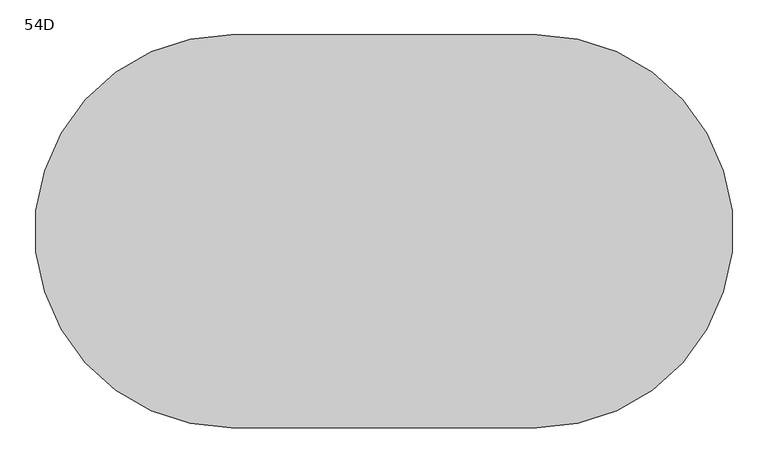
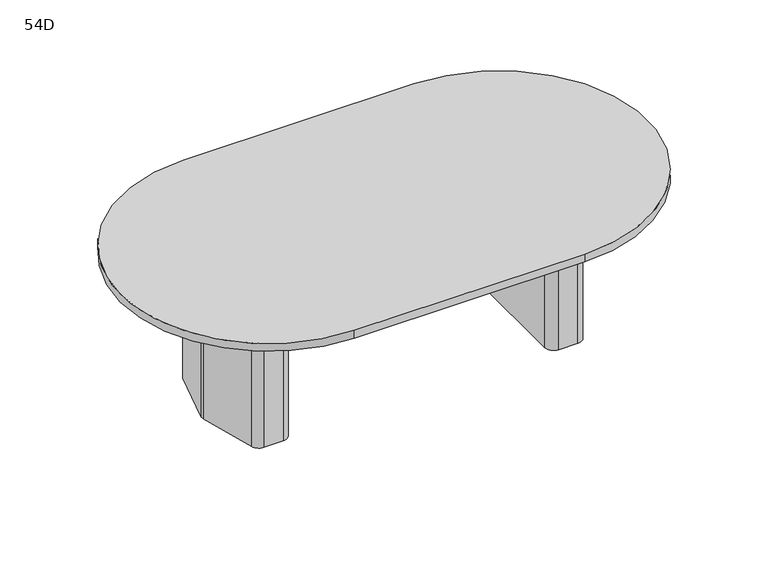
"""IFC4 building model written with IfcOpenShell, lengths in millimetres: furniture geometry, Coalesse_AM_Table_Conference_ETable2_Racetrack_96in_TwoBase : 54D."""

from ifc_helpers import new_model, si_unit, point, frame, frame_2d, origin, place, context, project, spatial, polyline, circle_curve, trimmed, segment, composite_curve, outline, extrude, source, transform, mapped, element, save
from ifc_brep_helpers import plane_surface, cylinder_surface, revolved_surface, advanced_brep


def furniture_54d_e9059d03(model_context):
    return source(origin(), model_context, "Body", "SolidModel", [
        advanced_brep(
        [(760.624548, 274.2093613, 698.5), (720.7579246, 304.8, 698.5), (631.825, 304.8, 698.5), (590.55, 263.525, 698.5), (590.55, -263.525, 698.5), (631.825, -304.8, 698.5), (720.7579246, -304.8, 698.5), (760.624548, -274.2093613, 698.5), (831.2503901, -10.6333708, 698.5), (831.2503901, 10.6333708, 698.5), (628.65, -206.375, 698.5), (628.65, 206.375, 698.5), (654.05, 231.775, 698.5), (713.0608422, 231.775, 698.5), (737.595338, 212.9490792, 698.5), (776.2875, 68.54974, 698.5), (776.2875, -68.54974, 698.5), (737.595338, -212.9490792, 698.5), (713.0608422, -231.775, 698.5), (654.05, -231.775, 698.5), (760.624548, 274.2093613, 3.175), (831.2503901, 10.6333708, 3.175), (831.2503901, -10.6333708, 3.175), (760.624548, -274.2093613, 3.175), (720.7579246, -304.8, 3.175), (631.825, -304.8, 3.175), (590.55, -263.525, 3.175), (590.55, 263.525, 3.175), (631.825, 304.8, 3.175), (720.7579246, 304.8, 3.175), (749.8625859, 216.2361187, 3.175), (713.0608422, 244.475, 3.175), (654.05, 244.475, 3.175), (615.95, 206.375, 3.175), (615.95, -206.375, 3.175), (654.05, -244.475, 3.175), (713.0608422, -244.475, 3.175), (749.8625859, -216.2361187, 3.175), (788.9875, -70.2217466, 3.175), (788.9875, 70.2217466, 3.175), (654.05, -231.775, 3.175), (628.65, -206.375, 3.175), (713.0608422, -231.775, 3.175), (737.595338, -212.9490792, 3.175), (776.2875, -68.54974, 3.175), (776.2875, 68.54974, 3.175), (737.595338, 212.9490792, 3.175), (713.0608422, 231.775, 3.175), (654.05, 231.775, 3.175), (628.65, 206.375, 3.175), (749.8625859, 216.2361187, 0.0), (788.9875, 70.2217466, 0.0), (788.9875, -70.2217466, 0.0), (749.8625859, -216.2361187, 0.0), (713.0608422, -244.475, 0.0), (654.05, -244.475, 0.0), (615.95, -206.375, 0.0), (615.95, 206.375, 0.0), (654.05, 244.475, 0.0), (713.0608422, 244.475, 0.0)],
        [
            (0, 1, circle_curve(frame((720.7579246, 263.5270004, 698.5), z_axis=(0.0, 0.0, 1.0), x_axis=(-1.0, 0.0, 0.0)), 41.2729996)),
            (1, 2),
            (2, 3, circle_curve(frame((631.825, 263.525, 698.5), z_axis=(0.0, 0.0, 1.0), x_axis=(-1.0, 0.0, 0.0)), 41.275)),
            (3, 4),
            (4, 5, circle_curve(frame((631.825, -263.525, 698.5), z_axis=(0.0, 0.0, 1.0), x_axis=(-1.0, 0.0, 0.0)), 41.275)),
            (5, 6),
            (6, 7, circle_curve(frame((720.7579246, -263.5270004, 698.5), z_axis=(0.0, 0.0, 1.0), x_axis=(-1.0, 0.0, 0.0)), 41.2729996)),
            (7, 8),
            (8, 9, circle_curve(frame((791.5665979, 0.0, 698.5), z_axis=(0.0, 0.0, 1.0), x_axis=(-1.0, 0.0, 0.0)), 41.0837187)),
            (9, 0),
            (10, 11),
            (11, 12, circle_curve(frame((654.05, 206.375, 698.5), z_axis=(0.0, 0.0, -1.0), x_axis=(-1.0, 0.0, 0.0)), 25.4)),
            (12, 13),
            (13, 14, circle_curve(frame((713.0608422, 206.375, 698.5), z_axis=(0.0, 0.0, -1.0), x_axis=(-1.0, 0.0, 0.0)), 25.4)),
            (14, 15),
            (15, 16),
            (16, 17),
            (17, 18, circle_curve(frame((713.0608422, -206.375, 698.5), z_axis=(0.0, 0.0, -1.0), x_axis=(-1.0, 0.0, 0.0)), 25.4)),
            (18, 19),
            (19, 10, circle_curve(frame((654.05, -206.375, 698.5), z_axis=(0.0, 0.0, -1.0), x_axis=(-1.0, 0.0, 0.0)), 25.4)),
            (20, 21),
            (21, 22, circle_curve(frame((791.5665979, 0.0, 3.175), z_axis=(0.0, 0.0, -1.0), x_axis=(-1.0, 0.0, 0.0)), 41.0837187)),
            (22, 23),
            (23, 24, circle_curve(frame((720.7579246, -263.5270004, 3.175), z_axis=(0.0, 0.0, -1.0), x_axis=(-1.0, 0.0, 0.0)), 41.2729996)),
            (24, 25),
            (25, 26, circle_curve(frame((631.825, -263.525, 3.175), z_axis=(0.0, 0.0, -1.0), x_axis=(-1.0, 0.0, 0.0)), 41.275)),
            (26, 27),
            (27, 28, circle_curve(frame((631.825, 263.525, 3.175), z_axis=(0.0, 0.0, -1.0), x_axis=(-1.0, 0.0, 0.0)), 41.275)),
            (28, 29),
            (29, 20, circle_curve(frame((720.7579246, 263.5270004, 3.175), z_axis=(0.0, 0.0, -1.0), x_axis=(-1.0, 0.0, 0.0)), 41.2729996)),
            (30, 31, circle_curve(frame((713.0608422, 206.375, 3.175), z_axis=(0.0, 0.0, 1.0), x_axis=(-1.0, 0.0, 0.0)), 38.1)),
            (31, 32),
            (32, 33, circle_curve(frame((654.05, 206.375, 3.175), z_axis=(0.0, 0.0, 1.0), x_axis=(-1.0, 0.0, 0.0)), 38.1)),
            (33, 34),
            (34, 35, circle_curve(frame((654.05, -206.375, 3.175), z_axis=(0.0, 0.0, 1.0), x_axis=(-1.0, 0.0, 0.0)), 38.1)),
            (35, 36),
            (36, 37, circle_curve(frame((713.0608422, -206.375, 3.175), z_axis=(0.0, 0.0, 1.0), x_axis=(-1.0, 0.0, 0.0)), 38.1)),
            (37, 38),
            (38, 39),
            (39, 30),
            (9, 21),
            (20, 0),
            (8, 22),
            (7, 23),
            (6, 24),
            (5, 25),
            (4, 26),
            (3, 27),
            (2, 28),
            (1, 29),
            (19, 40),
            (40, 41, circle_curve(frame((654.05, -206.375, 3.175), z_axis=(0.0, 0.0, -1.0), x_axis=(-1.0, 0.0, 0.0)), 25.4)),
            (41, 10),
            (18, 42),
            (42, 40),
            (17, 43),
            (43, 42, circle_curve(frame((713.0608422, -206.375, 3.175), z_axis=(0.0, 0.0, -1.0), x_axis=(-1.0, 0.0, 0.0)), 25.4)),
            (16, 44),
            (44, 43),
            (15, 45),
            (45, 44),
            (14, 46),
            (46, 45),
            (13, 47),
            (47, 46, circle_curve(frame((713.0608422, 206.375, 3.175), z_axis=(0.0, 0.0, -1.0), x_axis=(-1.0, 0.0, 0.0)), 25.4)),
            (12, 48),
            (48, 47),
            (11, 49),
            (49, 48, circle_curve(frame((654.05, 206.375, 3.175), z_axis=(0.0, 0.0, -1.0), x_axis=(-1.0, 0.0, 0.0)), 25.4)),
            (41, 49),
            (50, 51),
            (51, 52),
            (52, 53),
            (53, 54, circle_curve(frame((713.0608422, -206.375, 0.0), z_axis=(0.0, 0.0, -1.0), x_axis=(-1.0, 0.0, 0.0)), 38.1)),
            (54, 55),
            (55, 56, circle_curve(frame((654.05, -206.375, 0.0), z_axis=(0.0, 0.0, -1.0), x_axis=(-1.0, 0.0, 0.0)), 38.1)),
            (56, 57),
            (57, 58, circle_curve(frame((654.05, 206.375, 0.0), z_axis=(0.0, 0.0, -1.0), x_axis=(-1.0, 0.0, 0.0)), 38.1)),
            (58, 59),
            (59, 50, circle_curve(frame((713.0608422, 206.375, 0.0), z_axis=(0.0, 0.0, -1.0), x_axis=(-1.0, 0.0, 0.0)), 38.1)),
            (50, 30),
            (39, 51),
            (38, 52),
            (37, 53),
            (36, 54),
            (35, 55),
            (34, 56),
            (33, 57),
            (32, 58),
            (31, 59),
        ],
        [
            plane_surface(frame((831.2374275, 10.6817473, 698.5), z_axis=(0.0, 0.0, 1.0000000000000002), x_axis=(0.25882201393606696, -0.9659250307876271, 0.0))),
            plane_surface(frame((831.2374275, 10.6817473, 3.175), z_axis=(0.0, 0.0, -1.0000000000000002), x_axis=(-0.25882201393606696, 0.9659250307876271, 0.0))),
            plane_surface(frame((760.624548, 274.2093613, 698.5), z_axis=(0.9659250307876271, 0.25882201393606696, 0.0), x_axis=(0.0, 0.0, -1.0))),
            cylinder_surface(frame((791.5665979, 0.0, 3.175), z_axis=(0.0, 0.0, 1.0), x_axis=(-1.0, 0.0, 0.0)), 41.0837187),
            plane_surface(frame((831.2503901, -10.6333708, 698.5), z_axis=(0.9659250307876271, -0.2588220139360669, 0.0), x_axis=(0.0, 0.0, -1.0))),
            cylinder_surface(frame((720.7579246, -263.5270004, 3.175), z_axis=(0.0, 0.0, 1.0), x_axis=(-1.0, 0.0, 0.0)), 41.2729996),
            plane_surface(frame((720.7579246, -304.8, 698.5), z_axis=(0.0, -1.0, 0.0), x_axis=(0.0, 0.0, -1.0))),
            cylinder_surface(frame((631.825, -263.525, 3.175), z_axis=(0.0, 0.0, 1.0), x_axis=(-1.0, 0.0, 0.0)), 41.275),
            plane_surface(frame((590.55, -263.525, 698.5), z_axis=(-1.0, 0.0, 0.0), x_axis=(0.0, 0.0, -1.0))),
            cylinder_surface(frame((631.825, 263.525, 3.175), z_axis=(0.0, 0.0, 1.0), x_axis=(-1.0, 0.0, 0.0)), 41.275),
            plane_surface(frame((631.825, 304.8, 698.5), z_axis=(0.0, 1.0, 0.0), x_axis=(0.0, 0.0, -1.0))),
            cylinder_surface(frame((720.7579246, 263.5270004, 3.175), z_axis=(0.0, 0.0, 1.0), x_axis=(-1.0, 0.0, 0.0)), 41.2729996),
            revolved_surface(polyline([(628.65, -206.375, 3.175), (628.65, -206.375, 698.5)]), (654.05, -206.375, 0.0), (0.0, 0.0, -1.0)),
            plane_surface(frame((654.05, -231.775, 698.5), z_axis=(0.0, 1.0, 0.0), x_axis=(0.0, 0.0, -1.0))),
            revolved_surface(polyline([(687.6608422, -206.375, 3.175), (687.6608422, -206.375, 698.5)]), (713.0608422, -206.375, 0.0), (0.0, 0.0, -1.0)),
            plane_surface(frame((737.595338, -212.9490792, 698.5), z_axis=(-0.9659250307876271, 0.2588220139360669, 0.0), x_axis=(0.0, 0.0, -1.0))),
            plane_surface(frame((776.2875, -68.54974, 698.5), z_axis=(-1.0, 0.0, 0.0), x_axis=(0.0, 0.0, -1.0))),
            plane_surface(frame((776.2875, 68.54974, 698.5), z_axis=(-0.9659250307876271, -0.25882201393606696, 0.0), x_axis=(0.0, 0.0, -1.0))),
            revolved_surface(polyline([(687.6608422, 206.375, 3.175), (687.6608422, 206.375, 698.5)]), (713.0608422, 206.375, 0.0), (0.0, 0.0, -1.0)),
            plane_surface(frame((713.0608422, 231.775, 698.5), z_axis=(0.0, -1.0, 0.0), x_axis=(0.0, 0.0, -1.0))),
            revolved_surface(polyline([(628.65, 206.375, 3.175), (628.65, 206.375, 698.5)]), (654.05, 206.375, 0.0), (0.0, 0.0, -1.0)),
            plane_surface(frame((628.65, 206.375, 698.5), z_axis=(1.0, 0.0, 0.0), x_axis=(0.0, 0.0, -1.0))),
            plane_surface(frame((788.5547479, 71.8367796, 3.175), z_axis=(0.0, 0.0, 1.0), x_axis=(0.25882201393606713, -0.965925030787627, 0.0))),
            plane_surface(frame((788.5547479, 71.8367796, 0.0), z_axis=(0.0, 0.0, -1.0), x_axis=(-0.25882201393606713, 0.965925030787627, 0.0))),
            plane_surface(frame((749.8625859, 216.2361187, 3.175), z_axis=(0.965925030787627, 0.25882201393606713, 0.0), x_axis=(0.0, 0.0, -1.0))),
            plane_surface(frame((788.9875, 70.2217466, 3.175), z_axis=(1.0, 0.0, 0.0), x_axis=(0.0, 0.0, -1.0))),
            plane_surface(frame((788.9875, -70.2217466, 3.175), z_axis=(0.9659250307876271, -0.2588220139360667, 0.0), x_axis=(0.0, 0.0, -1.0))),
            cylinder_surface(frame((713.0608422, -206.375, 0.0), z_axis=(0.0, 0.0, 1.0), x_axis=(-1.0, 0.0, 0.0)), 38.1),
            plane_surface(frame((713.0608422, -244.475, 3.175), z_axis=(0.0, -1.0, 0.0), x_axis=(0.0, 0.0, -1.0))),
            cylinder_surface(frame((654.05, -206.375, 0.0), z_axis=(0.0, 0.0, 1.0), x_axis=(-1.0, 0.0, 0.0)), 38.1),
            plane_surface(frame((615.95, -206.375, 3.175), z_axis=(-1.0, 0.0, 0.0), x_axis=(0.0, 0.0, -1.0))),
            cylinder_surface(frame((654.05, 206.375, 0.0), z_axis=(0.0, 0.0, 1.0), x_axis=(-1.0, 0.0, 0.0)), 38.1),
            plane_surface(frame((654.05, 244.475, 3.175), z_axis=(0.0, 1.0, 0.0), x_axis=(0.0, 0.0, -1.0))),
            cylinder_surface(frame((713.0608422, 206.375, 0.0), z_axis=(0.0, 0.0, 1.0), x_axis=(-1.0, 0.0, 0.0)), 38.1),
        ],
        [
            (0, [[1, 2, 3, 4, 5, 6, 7, 8, 9, 10], [11, 12, 13, 14, 15, 16, 17, 18, 19, 20]]),
            (1, [[21, 22, 23, 24, 25, 26, 27, 28, 29, 30], [31, 32, 33, 34, 35, 36, 37, 38, 39, 40]]),
            (2, [[41, -21, 42, -10]]),
            (3, [[43, -22, -41, -9]]),
            (4, [[44, -23, -43, -8]]),
            (5, [[45, -24, -44, -7]]),
            (6, [[46, -25, -45, -6]]),
            (7, [[47, -26, -46, -5]]),
            (8, [[48, -27, -47, -4]]),
            (9, [[49, -28, -48, -3]]),
            (10, [[50, -29, -49, -2]]),
            (11, [[-42, -30, -50, -1]]),
            (12, [[51, 52, 53, -20]]),
            (13, [[54, 55, -51, -19]]),
            (14, [[56, 57, -54, -18]]),
            (15, [[58, 59, -56, -17]]),
            (16, [[60, 61, -58, -16]]),
            (17, [[62, 63, -60, -15]]),
            (18, [[64, 65, -62, -14]]),
            (19, [[66, 67, -64, -13]]),
            (20, [[68, 69, -66, -12]]),
            (21, [[-53, 70, -68, -11]]),
            (22, [[-55, -57, -59, -61, -63, -65, -67, -69, -70, -52]]),
            (23, [[71, 72, 73, 74, 75, 76, 77, 78, 79, 80]]),
            (24, [[81, -40, 82, -71]]),
            (25, [[-82, -39, 83, -72]]),
            (26, [[-83, -38, 84, -73]]),
            (27, [[-84, -37, 85, -74]]),
            (28, [[-85, -36, 86, -75]]),
            (29, [[-86, -35, 87, -76]]),
            (30, [[-87, -34, 88, -77]]),
            (31, [[-88, -33, 89, -78]]),
            (32, [[-89, -32, 90, -79]]),
            (33, [[-90, -31, -81, -80]]),
        ],
    ),
        advanced_brep(
        [(-771.737048, 274.2093613, 698.5), (-842.3628901, 10.6333708, 698.5), (-842.3628901, -10.6333708, 698.5), (-771.737048, -274.2093613, 698.5), (-731.8704246, -304.8, 698.5), (-642.9375, -304.8, 698.5), (-601.6625, -263.525, 698.5), (-601.6625, 263.525, 698.5), (-642.9375, 304.8, 698.5), (-731.8704246, 304.8, 698.5), (-639.7625, -206.375, 698.5), (-665.1625, -231.775, 698.5), (-724.1733422, -231.775, 698.5), (-748.707838, -212.9490792, 698.5), (-787.4, -68.54974, 698.5), (-787.4, 68.54974, 698.5), (-748.707838, 212.9490792, 698.5), (-724.1733422, 231.775, 698.5), (-665.1625, 231.775, 698.5), (-639.7625, 206.375, 698.5), (-771.737048, 274.2093613, 3.175), (-731.8704246, 304.8, 3.175), (-642.9375, 304.8, 3.175), (-601.6625, 263.525, 3.175), (-601.6625, -263.525, 3.175), (-642.9375, -304.8, 3.175), (-731.8704246, -304.8, 3.175), (-771.737048, -274.2093613, 3.175), (-842.3628901, -10.6333708, 3.175), (-842.3628901, 10.6333708, 3.175), (-760.9750859, 216.2361187, 3.175), (-800.1, 70.2217466, 3.175), (-800.1, -70.2217466, 3.175), (-760.9750859, -216.2361187, 3.175), (-724.1733422, -244.475, 3.175), (-665.1625, -244.475, 3.175), (-627.0625, -206.375, 3.175), (-627.0625, 206.375, 3.175), (-665.1625, 244.475, 3.175), (-724.1733422, 244.475, 3.175), (-639.7625, -206.375, 3.175), (-665.1625, -231.775, 3.175), (-724.1733422, -231.775, 3.175), (-748.707838, -212.9490792, 3.175), (-787.4, -68.54974, 3.175), (-787.4, 68.54974, 3.175), (-748.707838, 212.9490792, 3.175), (-724.1733422, 231.775, 3.175), (-665.1625, 231.775, 3.175), (-639.7625, 206.375, 3.175), (-760.9750859, 216.2361187, 0.0), (-724.1733422, 244.475, 0.0), (-665.1625, 244.475, 0.0), (-627.0625, 206.375, 0.0), (-627.0625, -206.375, 0.0), (-665.1625, -244.475, 0.0), (-724.1733422, -244.475, 0.0), (-760.9750859, -216.2361187, 0.0), (-800.1, -70.2217466, 0.0), (-800.1, 70.2217466, 0.0)],
        [
            (0, 1),
            (1, 2, circle_curve(frame((-802.6790979, 0.0, 698.5), z_axis=(0.0, 0.0, 1.0), x_axis=(1.0, 0.0, 0.0)), 41.0837187)),
            (2, 3),
            (3, 4, circle_curve(frame((-731.8704246, -263.5270004, 698.5), z_axis=(0.0, 0.0, 1.0), x_axis=(1.0, 0.0, 0.0)), 41.2729996)),
            (4, 5),
            (5, 6, circle_curve(frame((-642.9375, -263.525, 698.5), z_axis=(0.0, 0.0, 1.0), x_axis=(1.0, 0.0, 0.0)), 41.275)),
            (6, 7),
            (7, 8, circle_curve(frame((-642.9375, 263.525, 698.5), z_axis=(0.0, 0.0, 1.0), x_axis=(1.0, 0.0, 0.0)), 41.275)),
            (8, 9),
            (9, 0, circle_curve(frame((-731.8704246, 263.5270004, 698.5), z_axis=(0.0, 0.0, 1.0), x_axis=(1.0, 0.0, 0.0)), 41.2729996)),
            (10, 11, circle_curve(frame((-665.1625, -206.375, 698.5), z_axis=(0.0, 0.0, -1.0), x_axis=(1.0, 0.0, 0.0)), 25.4)),
            (11, 12),
            (12, 13, circle_curve(frame((-724.1733422, -206.375, 698.5), z_axis=(0.0, 0.0, -1.0), x_axis=(1.0, 0.0, 0.0)), 25.4)),
            (13, 14),
            (14, 15),
            (15, 16),
            (16, 17, circle_curve(frame((-724.1733422, 206.375, 698.5), z_axis=(0.0, 0.0, -1.0), x_axis=(1.0, 0.0, 0.0)), 25.4)),
            (17, 18),
            (18, 19, circle_curve(frame((-665.1625, 206.375, 698.5), z_axis=(0.0, 0.0, -1.0), x_axis=(1.0, 0.0, 0.0)), 25.4)),
            (19, 10),
            (20, 21, circle_curve(frame((-731.8704246, 263.5270004, 3.175), z_axis=(0.0, 0.0, -1.0), x_axis=(1.0, 0.0, 0.0)), 41.2729996)),
            (21, 22),
            (22, 23, circle_curve(frame((-642.9375, 263.525, 3.175), z_axis=(0.0, 0.0, -1.0), x_axis=(1.0, 0.0, 0.0)), 41.275)),
            (23, 24),
            (24, 25, circle_curve(frame((-642.9375, -263.525, 3.175), z_axis=(0.0, 0.0, -1.0), x_axis=(1.0, 0.0, 0.0)), 41.275)),
            (25, 26),
            (26, 27, circle_curve(frame((-731.8704246, -263.5270004, 3.175), z_axis=(0.0, 0.0, -1.0), x_axis=(1.0, 0.0, 0.0)), 41.2729996)),
            (27, 28),
            (28, 29, circle_curve(frame((-802.6790979, 0.0, 3.175), z_axis=(0.0, 0.0, -1.0), x_axis=(1.0, 0.0, 0.0)), 41.0837187)),
            (29, 20),
            (30, 31),
            (31, 32),
            (32, 33),
            (33, 34, circle_curve(frame((-724.1733422, -206.375, 3.175), z_axis=(0.0, 0.0, 1.0), x_axis=(1.0, 0.0, 0.0)), 38.1)),
            (34, 35),
            (35, 36, circle_curve(frame((-665.1625, -206.375, 3.175), z_axis=(0.0, 0.0, 1.0), x_axis=(1.0, 0.0, 0.0)), 38.1)),
            (36, 37),
            (37, 38, circle_curve(frame((-665.1625, 206.375, 3.175), z_axis=(0.0, 0.0, 1.0), x_axis=(1.0, 0.0, 0.0)), 38.1)),
            (38, 39),
            (39, 30, circle_curve(frame((-724.1733422, 206.375, 3.175), z_axis=(0.0, 0.0, 1.0), x_axis=(1.0, 0.0, 0.0)), 38.1)),
            (0, 20),
            (29, 1),
            (28, 2),
            (27, 3),
            (26, 4),
            (25, 5),
            (24, 6),
            (23, 7),
            (22, 8),
            (21, 9),
            (10, 40),
            (40, 41, circle_curve(frame((-665.1625, -206.375, 3.175), z_axis=(0.0, 0.0, -1.0), x_axis=(1.0, 0.0, 0.0)), 25.4)),
            (41, 11),
            (41, 42),
            (42, 12),
            (42, 43, circle_curve(frame((-724.1733422, -206.375, 3.175), z_axis=(0.0, 0.0, -1.0), x_axis=(1.0, 0.0, 0.0)), 25.4)),
            (43, 13),
            (43, 44),
            (44, 14),
            (44, 45),
            (45, 15),
            (45, 46),
            (46, 16),
            (46, 47, circle_curve(frame((-724.1733422, 206.375, 3.175), z_axis=(0.0, 0.0, -1.0), x_axis=(1.0, 0.0, 0.0)), 25.4)),
            (47, 17),
            (47, 48),
            (48, 18),
            (48, 49, circle_curve(frame((-665.1625, 206.375, 3.175), z_axis=(0.0, 0.0, -1.0), x_axis=(1.0, 0.0, 0.0)), 25.4)),
            (49, 19),
            (49, 40),
            (50, 51, circle_curve(frame((-724.1733422, 206.375, 0.0), z_axis=(0.0, 0.0, -1.0), x_axis=(1.0, 0.0, 0.0)), 38.1)),
            (51, 52),
            (52, 53, circle_curve(frame((-665.1625, 206.375, 0.0), z_axis=(0.0, 0.0, -1.0), x_axis=(1.0, 0.0, 0.0)), 38.1)),
            (53, 54),
            (54, 55, circle_curve(frame((-665.1625, -206.375, 0.0), z_axis=(0.0, 0.0, -1.0), x_axis=(1.0, 0.0, 0.0)), 38.1)),
            (55, 56),
            (56, 57, circle_curve(frame((-724.1733422, -206.375, 0.0), z_axis=(0.0, 0.0, -1.0), x_axis=(1.0, 0.0, 0.0)), 38.1)),
            (57, 58),
            (58, 59),
            (59, 50),
            (59, 31),
            (30, 50),
            (58, 32),
            (57, 33),
            (56, 34),
            (55, 35),
            (54, 36),
            (53, 37),
            (52, 38),
            (51, 39),
        ],
        [
            plane_surface(frame((-842.3499275, 10.6817473, 698.5), z_axis=(0.0, 0.0, 1.0000000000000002), x_axis=(-0.25882201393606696, -0.9659250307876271, 0.0))),
            plane_surface(frame((-842.3499275, 10.6817473, 3.175), z_axis=(0.0, 0.0, -1.0000000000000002), x_axis=(0.25882201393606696, 0.9659250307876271, 0.0))),
            plane_surface(frame((-771.737048, 274.2093613, 698.5), z_axis=(-0.9659250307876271, 0.25882201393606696, 0.0), x_axis=(0.0, 0.0, -1.0))),
            cylinder_surface(frame((-802.6790979, 0.0, 3.175), z_axis=(0.0, 0.0, 1.0), x_axis=(1.0, 0.0, 0.0)), 41.0837187),
            plane_surface(frame((-842.3628901, -10.6333708, 698.5), z_axis=(-0.9659250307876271, -0.2588220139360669, 0.0), x_axis=(0.0, 0.0, -1.0))),
            cylinder_surface(frame((-731.8704246, -263.5270004, 3.175), z_axis=(0.0, 0.0, 1.0), x_axis=(1.0, 0.0, 0.0)), 41.2729996),
            plane_surface(frame((-731.8704246, -304.8, 698.5), z_axis=(0.0, -1.0, 0.0), x_axis=(0.0, 0.0, -1.0))),
            cylinder_surface(frame((-642.9375, -263.525, 3.175), z_axis=(0.0, 0.0, 1.0), x_axis=(1.0, 0.0, 0.0)), 41.275),
            plane_surface(frame((-601.6625, -263.525, 698.5), z_axis=(1.0, 0.0, 0.0), x_axis=(0.0, 0.0, -1.0))),
            cylinder_surface(frame((-642.9375, 263.525, 3.175), z_axis=(0.0, 0.0, 1.0), x_axis=(1.0, 0.0, 0.0)), 41.275),
            plane_surface(frame((-642.9375, 304.8, 698.5), z_axis=(0.0, 1.0, 0.0), x_axis=(0.0, 0.0, -1.0))),
            cylinder_surface(frame((-731.8704246, 263.5270004, 3.175), z_axis=(0.0, 0.0, 1.0), x_axis=(1.0, 0.0, 0.0)), 41.2729996),
            revolved_surface(polyline([(-639.7625, -206.375, 3.175), (-639.7625, -206.375, 698.5)]), (-665.1625, -206.375, 0.0), (0.0, 0.0, -1.0)),
            plane_surface(frame((-665.1625, -231.775, 698.5), z_axis=(0.0, 1.0, 0.0), x_axis=(0.0, 0.0, -1.0))),
            revolved_surface(polyline([(-698.7733422, -206.375, 3.175), (-698.7733422, -206.375, 698.5)]), (-724.1733422, -206.375, 0.0), (0.0, 0.0, -1.0)),
            plane_surface(frame((-748.707838, -212.9490792, 698.5), z_axis=(0.9659250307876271, 0.2588220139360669, 0.0), x_axis=(0.0, 0.0, -1.0))),
            plane_surface(frame((-787.4, -68.54974, 698.5), z_axis=(1.0, 0.0, 0.0), x_axis=(0.0, 0.0, -1.0))),
            plane_surface(frame((-787.4, 68.54974, 698.5), z_axis=(0.9659250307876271, -0.25882201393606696, 0.0), x_axis=(0.0, 0.0, -1.0))),
            revolved_surface(polyline([(-698.7733422, 206.375, 3.175), (-698.7733422, 206.375, 698.5)]), (-724.1733422, 206.375, 0.0), (0.0, 0.0, -1.0)),
            plane_surface(frame((-724.1733422, 231.775, 698.5), z_axis=(0.0, -1.0, 0.0), x_axis=(0.0, 0.0, -1.0))),
            revolved_surface(polyline([(-639.7625, 206.375, 3.175), (-639.7625, 206.375, 698.5)]), (-665.1625, 206.375, 0.0), (0.0, 0.0, -1.0)),
            plane_surface(frame((-639.7625, 206.375, 698.5), z_axis=(-1.0, 0.0, 0.0), x_axis=(0.0, 0.0, -1.0))),
            plane_surface(frame((-799.6672479, 71.8367796, 3.175), z_axis=(0.0, 0.0, 1.0), x_axis=(-0.25882201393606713, -0.965925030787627, 0.0))),
            plane_surface(frame((-799.6672479, 71.8367796, 0.0), z_axis=(0.0, 0.0, -1.0), x_axis=(0.25882201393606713, 0.965925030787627, 0.0))),
            plane_surface(frame((-760.9750859, 216.2361187, 3.175), z_axis=(-0.965925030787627, 0.25882201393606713, 0.0), x_axis=(0.0, 0.0, -1.0))),
            plane_surface(frame((-800.1, 70.2217466, 3.175), z_axis=(-1.0, 0.0, 0.0), x_axis=(0.0, 0.0, -1.0))),
            plane_surface(frame((-800.1, -70.2217466, 3.175), z_axis=(-0.9659250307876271, -0.2588220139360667, 0.0), x_axis=(0.0, 0.0, -1.0))),
            cylinder_surface(frame((-724.1733422, -206.375, 0.0), z_axis=(0.0, 0.0, 1.0), x_axis=(1.0, 0.0, 0.0)), 38.1),
            plane_surface(frame((-724.1733422, -244.475, 3.175), z_axis=(0.0, -1.0, 0.0), x_axis=(0.0, 0.0, -1.0))),
            cylinder_surface(frame((-665.1625, -206.375, 0.0), z_axis=(0.0, 0.0, 1.0), x_axis=(1.0, 0.0, 0.0)), 38.1),
            plane_surface(frame((-627.0625, -206.375, 3.175), z_axis=(1.0, 0.0, 0.0), x_axis=(0.0, 0.0, -1.0))),
            cylinder_surface(frame((-665.1625, 206.375, 0.0), z_axis=(0.0, 0.0, 1.0), x_axis=(1.0, 0.0, 0.0)), 38.1),
            plane_surface(frame((-665.1625, 244.475, 3.175), z_axis=(0.0, 1.0, 0.0), x_axis=(0.0, 0.0, -1.0))),
            cylinder_surface(frame((-724.1733422, 206.375, 0.0), z_axis=(0.0, 0.0, 1.0), x_axis=(1.0, 0.0, 0.0)), 38.1),
        ],
        [
            (0, [[1, 2, 3, 4, 5, 6, 7, 8, 9, 10], [11, 12, 13, 14, 15, 16, 17, 18, 19, 20]]),
            (1, [[21, 22, 23, 24, 25, 26, 27, 28, 29, 30], [31, 32, 33, 34, 35, 36, 37, 38, 39, 40]]),
            (2, [[-1, 41, -30, 42]]),
            (3, [[-2, -42, -29, 43]]),
            (4, [[-3, -43, -28, 44]]),
            (5, [[-4, -44, -27, 45]]),
            (6, [[-5, -45, -26, 46]]),
            (7, [[-6, -46, -25, 47]]),
            (8, [[-7, -47, -24, 48]]),
            (9, [[-8, -48, -23, 49]]),
            (10, [[-9, -49, -22, 50]]),
            (11, [[-10, -50, -21, -41]]),
            (12, [[-11, 51, 52, 53]]),
            (13, [[-12, -53, 54, 55]]),
            (14, [[-13, -55, 56, 57]]),
            (15, [[-14, -57, 58, 59]]),
            (16, [[-15, -59, 60, 61]]),
            (17, [[-16, -61, 62, 63]]),
            (18, [[-17, -63, 64, 65]]),
            (19, [[-18, -65, 66, 67]]),
            (20, [[-19, -67, 68, 69]]),
            (21, [[-20, -69, 70, -51]]),
            (22, [[-52, -70, -68, -66, -64, -62, -60, -58, -56, -54]]),
            (23, [[71, 72, 73, 74, 75, 76, 77, 78, 79, 80]]),
            (24, [[-80, 81, -31, 82]]),
            (25, [[-79, 83, -32, -81]]),
            (26, [[-78, 84, -33, -83]]),
            (27, [[-77, 85, -34, -84]]),
            (28, [[-76, 86, -35, -85]]),
            (29, [[-75, 87, -36, -86]]),
            (30, [[-74, 88, -37, -87]]),
            (31, [[-73, 89, -38, -88]]),
            (32, [[-72, 90, -39, -89]]),
            (33, [[-71, -82, -40, -90]]),
        ],
    ),
        extrude(outline(polyline([(96.8375, 698.5), (103.1875, 698.5), (103.1875, 476.25), (-103.1875, 476.25), (-103.1875, 698.5), (-96.8375, 698.5), (-96.8375, 482.6), (96.8375, 482.6), (96.8375, 698.5)])), frame((-601.6625, 0.0, 0.0), z_axis=(1.0, 0.0, 0.0), x_axis=(0.0, 1.0, 0.0)), (0.0, 0.0, 1.0), 1192.2125),
        extrude(outline(composite_curve([segment(trimmed(circle_curve(frame_2d((-533.4, 0.0)), 685.8), [point((-533.4, -685.8))], [point((-533.4, 685.8))], False, "CARTESIAN"), True, "CONTINUOUS"), segment(polyline([(-533.4, 685.8), (533.4, 685.8)]), True, "CONTINUOUS"), segment(trimmed(circle_curve(frame_2d((533.4, 0.0)), 685.8), [point((533.4, 685.8))], [point((533.4, -685.8))], False, "CARTESIAN"), True, "CONTINUOUS"), segment(polyline([(533.4, -685.8), (-533.4, -685.8)]), True, "CONTINUOUS")], self_intersect=False)), frame((0.0, 0.0, 698.5), z_axis=(0.0, 0.0, 1.0), x_axis=(1.0, 0.0, 0.0)), (0.0, 0.0, 1.0), 38.1),
    ])


if __name__ == "__main__":
    model = new_model("IFC4")
    model_context = context("Model", 3, world=origin())
    ifc_project = project(units=[si_unit("LENGTHUNIT", "METRE", prefix="MILLI")], contexts=[model_context])
    site = spatial("IfcSite", under=ifc_project)
    building = spatial("IfcBuilding", under=site)
    placement = place(None, origin())
    furniture_54d_shape = furniture_54d_e9059d03(model_context)
    element("IfcFurniture", 1, ObjectType="Coalesse_AM_Table_Conference_ETable2_Racetrack_96in_TwoBase : 54D", at=placement, inside=building, context=model_context, shape_type="MappedRepresentation", body=[
        mapped(furniture_54d_shape, transform((0.0, 0.0, 0.0), x_axis=(1.0, 0.0, 0.0), y_axis=(0.0, 1.0, 0.0), z_axis=(0.0, 0.0, 1.0))),
    ])
    save(model, "model.ifc")
